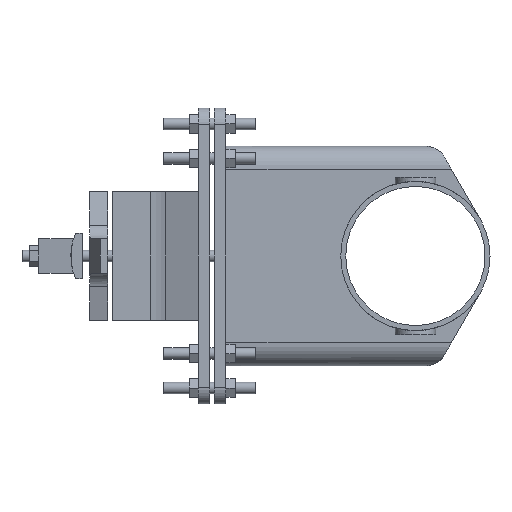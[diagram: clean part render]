
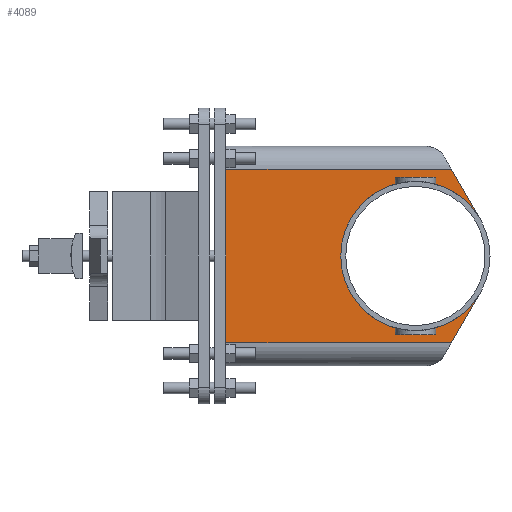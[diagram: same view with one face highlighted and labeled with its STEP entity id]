
A CAD part, left-side view. The second image highlights one B-rep face of the part: STEP entity #4089.
In plain terms, the highlighted planar face has unit normal (-1, 0, 0).
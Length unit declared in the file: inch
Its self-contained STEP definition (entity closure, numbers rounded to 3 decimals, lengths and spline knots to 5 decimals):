
#184=CIRCLE('',#4352,3.25);
#185=CIRCLE('',#4353,3.25);
#186=CIRCLE('',#4354,3.25);
#333=FACE_OUTER_BOUND('',#560,.T.);
#560=EDGE_LOOP('',(#2783,#2784,#2785,#2786,#2787,#2788,#2789,#2790,#2791,
#2792,#2793,#2794,#2795,#2796));
#891=LINE('',#6035,#1313);
#899=LINE('',#6065,#1321);
#909=LINE('',#6092,#1331);
#911=LINE('',#6096,#1333);
#912=LINE('',#6100,#1334);
#913=LINE('',#6102,#1335);
#914=LINE('',#6104,#1336);
#915=LINE('',#6108,#1337);
#916=LINE('',#6110,#1338);
#917=LINE('',#6112,#1339);
#918=LINE('',#6114,#1340);
#1313=VECTOR('',#4862,0.3937);
#1321=VECTOR('',#4892,0.3937);
#1331=VECTOR('',#4914,0.3937);
#1333=VECTOR('',#4918,0.3937);
#1334=VECTOR('',#4921,0.3937);
#1335=VECTOR('',#4922,0.3937);
#1336=VECTOR('',#4923,0.3937);
#1337=VECTOR('',#4926,0.3937);
#1338=VECTOR('',#4927,0.3937);
#1339=VECTOR('',#4928,0.3937);
#1340=VECTOR('',#4931,0.3937);
#1708=VERTEX_POINT('',#6033);
#1709=VERTEX_POINT('',#6034);
#1719=VERTEX_POINT('',#6062);
#1720=VERTEX_POINT('',#6064);
#1731=VERTEX_POINT('',#6091);
#1732=VERTEX_POINT('',#6095);
#1733=VERTEX_POINT('',#6097);
#1734=VERTEX_POINT('',#6099);
#1735=VERTEX_POINT('',#6101);
#1736=VERTEX_POINT('',#6103);
#1737=VERTEX_POINT('',#6105);
#1738=VERTEX_POINT('',#6107);
#1739=VERTEX_POINT('',#6109);
#1740=VERTEX_POINT('',#6111);
#2116=EDGE_CURVE('',#1708,#1709,#891,.T.);
#2131=EDGE_CURVE('',#1719,#1720,#899,.T.);
#2145=EDGE_CURVE('',#1731,#1720,#909,.T.);
#2147=EDGE_CURVE('',#1708,#1732,#911,.T.);
#2148=EDGE_CURVE('',#1733,#1732,#184,.T.);
#2149=EDGE_CURVE('',#1733,#1734,#912,.T.);
#2150=EDGE_CURVE('',#1734,#1735,#913,.T.);
#2151=EDGE_CURVE('',#1735,#1736,#914,.T.);
#2152=EDGE_CURVE('',#1737,#1736,#185,.T.);
#2153=EDGE_CURVE('',#1737,#1738,#915,.T.);
#2154=EDGE_CURVE('',#1738,#1739,#916,.T.);
#2155=EDGE_CURVE('',#1739,#1740,#917,.T.);
#2156=EDGE_CURVE('',#1731,#1740,#186,.T.);
#2157=EDGE_CURVE('',#1719,#1709,#918,.T.);
#2783=ORIENTED_EDGE('',*,*,#2116,.F.);
#2784=ORIENTED_EDGE('',*,*,#2147,.T.);
#2785=ORIENTED_EDGE('',*,*,#2148,.F.);
#2786=ORIENTED_EDGE('',*,*,#2149,.T.);
#2787=ORIENTED_EDGE('',*,*,#2150,.T.);
#2788=ORIENTED_EDGE('',*,*,#2151,.T.);
#2789=ORIENTED_EDGE('',*,*,#2152,.F.);
#2790=ORIENTED_EDGE('',*,*,#2153,.T.);
#2791=ORIENTED_EDGE('',*,*,#2154,.T.);
#2792=ORIENTED_EDGE('',*,*,#2155,.T.);
#2793=ORIENTED_EDGE('',*,*,#2156,.F.);
#2794=ORIENTED_EDGE('',*,*,#2145,.T.);
#2795=ORIENTED_EDGE('',*,*,#2131,.F.);
#2796=ORIENTED_EDGE('',*,*,#2157,.T.);
#3692=PLANE('',#4351);
#4089=ADVANCED_FACE('',(#333),#3692,.F.);
#4351=AXIS2_PLACEMENT_3D('',#6094,#4916,#4917);
#4352=AXIS2_PLACEMENT_3D('',#6098,#4919,#4920);
#4353=AXIS2_PLACEMENT_3D('',#6106,#4924,#4925);
#4354=AXIS2_PLACEMENT_3D('',#6113,#4929,#4930);
#4862=DIRECTION('',(0.,1.,0.));
#4892=DIRECTION('',(0.,-1.,0.));
#4914=DIRECTION('',(0.,0.5,0.866));
#4916=DIRECTION('center_axis',(1.,0.,0.));
#4917=DIRECTION('ref_axis',(0.,0.,-1.));
#4918=DIRECTION('',(0.,-0.5,0.866));
#4919=DIRECTION('center_axis',(-1.,0.,0.));
#4920=DIRECTION('ref_axis',(0.,1.,0.));
#4921=DIRECTION('',(0.,0.,-1.));
#4922=DIRECTION('',(0.,1.,0.));
#4923=DIRECTION('',(0.,0.,1.));
#4924=DIRECTION('center_axis',(-1.,0.,0.));
#4925=DIRECTION('ref_axis',(0.,1.,0.));
#4926=DIRECTION('',(0.,0.,1.));
#4927=DIRECTION('',(0.,-1.,0.));
#4928=DIRECTION('',(0.,0.,-1.));
#4929=DIRECTION('center_axis',(-1.,0.,0.));
#4930=DIRECTION('ref_axis',(0.,1.,0.));
#4931=DIRECTION('',(0.,0.,-1.));
#6033=CARTESIAN_POINT('',(-2.8,-1.56751,-3.785));
#6034=CARTESIAN_POINT('',(-2.8,8.25,-3.785));
#6035=CARTESIAN_POINT('',(-2.8,1.14381,-3.785));
#6062=CARTESIAN_POINT('',(-2.8,8.25,3.785));
#6064=CARTESIAN_POINT('',(-2.8,-1.56751,3.785));
#6065=CARTESIAN_POINT('',(-2.8,5.76389,3.785));
#6091=CARTESIAN_POINT('',(-2.8,-2.81458,1.625));
#6092=CARTESIAN_POINT('',(-2.8,-2.81458,1.625));
#6094=CARTESIAN_POINT('Origin',(-2.8,3.27778,0.));
#6095=CARTESIAN_POINT('',(-2.8,-2.81458,-1.625));
#6096=CARTESIAN_POINT('',(-2.8,-0.99016,-4.785));
#6097=CARTESIAN_POINT('',(-2.8,-0.69728,-3.17432));
#6098=CARTESIAN_POINT('Origin',(-2.8,0.,0.));
#6099=CARTESIAN_POINT('',(-2.8,-0.69728,-3.4315));
#6100=CARTESIAN_POINT('',(-2.8,-0.69728,0.));
#6101=CARTESIAN_POINT('',(-2.8,0.69728,-3.4315));
#6102=CARTESIAN_POINT('',(-2.8,1.63889,-3.4315));
#6103=CARTESIAN_POINT('',(-2.8,0.69728,-3.17432));
#6104=CARTESIAN_POINT('',(-2.8,0.69728,0.));
#6105=CARTESIAN_POINT('',(-2.8,0.69728,3.17432));
#6106=CARTESIAN_POINT('Origin',(-2.8,0.,0.));
#6107=CARTESIAN_POINT('',(-2.8,0.69728,3.4315));
#6108=CARTESIAN_POINT('',(-2.8,0.69728,0.));
#6109=CARTESIAN_POINT('',(-2.8,-0.69728,3.4315));
#6110=CARTESIAN_POINT('',(-2.8,1.63889,3.4315));
#6111=CARTESIAN_POINT('',(-2.8,-0.69728,3.17432));
#6112=CARTESIAN_POINT('',(-2.8,-0.69728,0.));
#6113=CARTESIAN_POINT('Origin',(-2.8,0.,0.));
#6114=CARTESIAN_POINT('',(-2.8,8.25,4.785));
